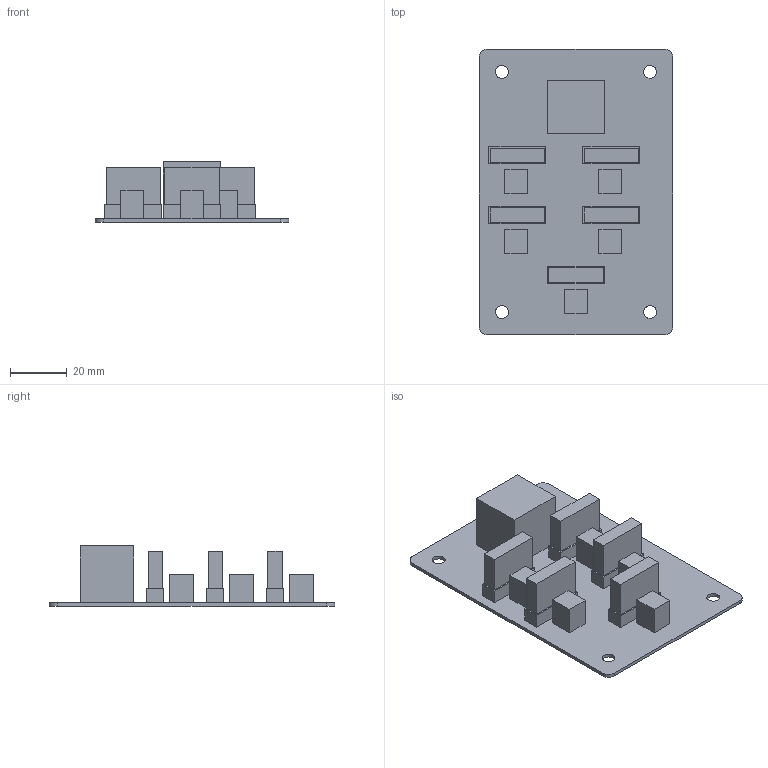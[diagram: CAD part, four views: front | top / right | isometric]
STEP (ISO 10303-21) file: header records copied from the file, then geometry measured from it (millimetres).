
FILE_DESCRIPTION(('Open CASCADE Model'),'2;1');
FILE_NAME('Open CASCADE Shape Model','2026-09-27T12:05:15',('Author'),( 'Open CASCADE'),'Open CASCADE STEP processor 8.0','Open CASCADE 8.0' ,'Unknown');
FILE_SCHEMA(('AUTOMOTIVE_DESIGN { 1 0 10303 214 1 1 1 1 }'));
Length unit declared in the file: millimetre
Products named in the file (18): Open CASCADE STEP translator 8.0 2; Open CASCADE STEP translator 8.0 2.1; Open CASCADE STEP translator 8.0 2.2; Open CASCADE STEP translator 8.0 2.3; Open CASCADE STEP translator 8.0 2.4; Open CASCADE STEP translator 8.0 2.5; Open CASCADE STEP translator 8.0 2.6; Open CASCADE STEP translator 8.0 2.7; Open CASCADE STEP translator 8.0 2.8; Open CASCADE STEP translator 8.0 2.9; Open CASCADE STEP translator 8.0 2.10; Open CASCADE STEP translator 8.0 2.11; Open CASCADE STEP translator 8.0 2.12; Open CASCADE STEP translator 8.0 2.13; Open CASCADE STEP translator 8.0 2.14; Open CASCADE STEP translator 8.0 2.15; Open CASCADE STEP translator 8.0 2.16; Open CASCADE STEP translator 8.0 2.17
Assembly tree (17 placements, depth 2):
  Open CASCADE STEP translator 8.0 2
    Open CASCADE STEP translator 8.0 2.1
    Open CASCADE STEP translator 8.0 2.2
    Open CASCADE STEP translator 8.0 2.3
    Open CASCADE STEP translator 8.0 2.4
    Open CASCADE STEP translator 8.0 2.5
    Open CASCADE STEP translator 8.0 2.6
    Open CASCADE STEP translator 8.0 2.7
    Open CASCADE STEP translator 8.0 2.8
    Open CASCADE STEP translator 8.0 2.9
    Open CASCADE STEP translator 8.0 2.10
    Open CASCADE STEP translator 8.0 2.11
    Open CASCADE STEP translator 8.0 2.12
    Open CASCADE STEP translator 8.0 2.13
    Open CASCADE STEP translator 8.0 2.14
    Open CASCADE STEP translator 8.0 2.15
    Open CASCADE STEP translator 8.0 2.16
    Open CASCADE STEP translator 8.0 2.17
Bounding box: 68 x 100.26 x 21.2 mm (x, y, z)
Volume: 28072.2 mm3; surface area: 25268.3 mm2
Topology: 17 solids, 17 shells, 169 faces, 405 edges, 270 vertices
Faces by surface type: plane 96, bspline 73
Entity records: 12312 total; most frequent: CARTESIAN_POINT 5216, ORIENTED_EDGE 810, PCURVE 810, DEFINITIONAL_REPRESENTATION 810, DIRECTION 804, LINE 576, VECTOR 576, EDGE_CURVE 405
